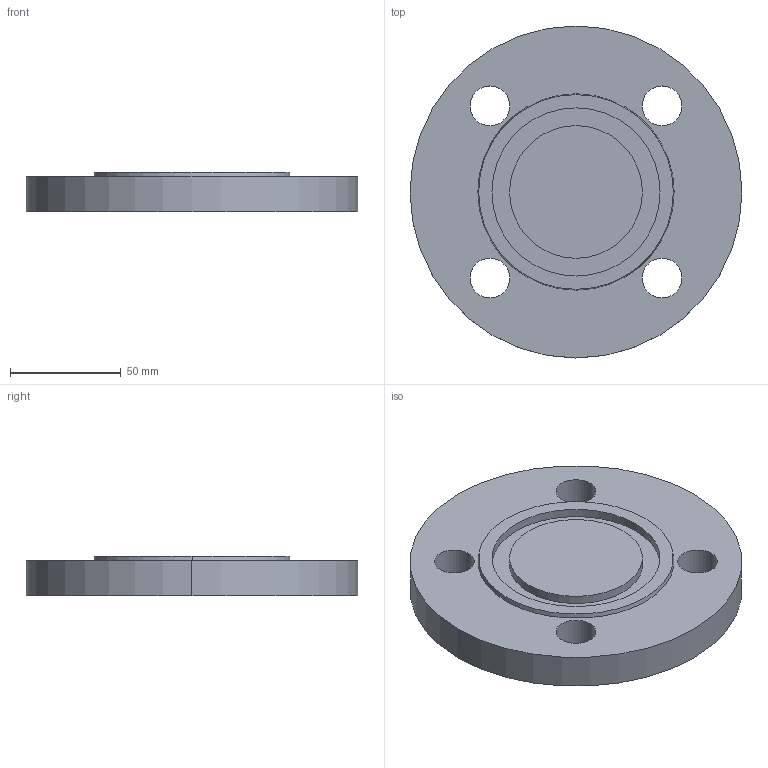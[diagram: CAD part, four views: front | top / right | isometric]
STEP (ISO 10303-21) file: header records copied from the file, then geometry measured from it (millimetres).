
FILE_DESCRIPTION (( 'STEP AP214' ), '1' );
FILE_NAME ('PN40 DN40 Type 05 - Type D Face.STEP', '2018-12-30T02:27:05', ( '' ), ( '' ), 'SwSTEP 2.0', 'SolidWorks 2019', '' );
FILE_SCHEMA (( 'AUTOMOTIVE_DESIGN' ));
Length unit declared in the file: millimetre
Products named in the file (1): PN40 DN40 Type 05 - Type D Face
Bounding box: 150 x 150 x 18 mm (x, y, z)
Volume: 271883.2 mm3; surface area: 46640.9 mm2
Topology: 1 solids, 1 shells, 21 faces, 48 edges, 32 vertices
Faces by surface type: cylinder 14, plane 5, cone 2
Entity records: 664 total; most frequent: DIRECTION 124, CARTESIAN_POINT 102, ORIENTED_EDGE 96, AXIS2_PLACEMENT_3D 54, EDGE_CURVE 48, CIRCLE 32, VERTEX_POINT 32, EDGE_LOOP 32
